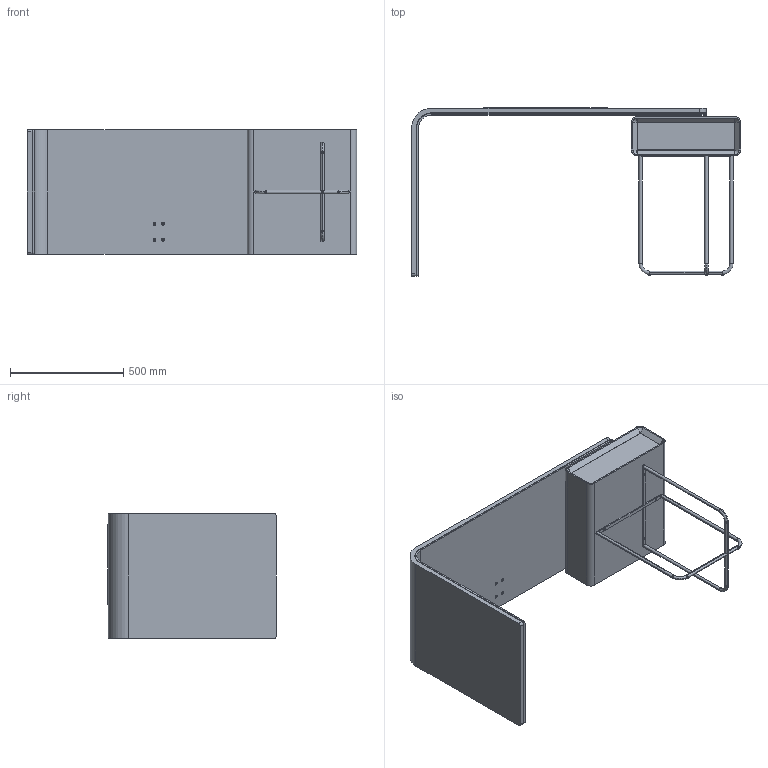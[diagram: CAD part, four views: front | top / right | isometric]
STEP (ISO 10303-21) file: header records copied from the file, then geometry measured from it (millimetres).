
FILE_DESCRIPTION (( 'STEP AP203' ), '1' );
FILE_NAME ('AU01W_Auri Desk_145x55x74h.STEP', '2024-08-06T07:02:38', ( '' ), ( '' ), 'SwSTEP 2.0', 'SolidWorks 2022', '' );
FILE_SCHEMA (( 'CONFIG_CONTROL_DESIGN' ));
Length unit declared in the file: millimetre
Products named in the file (13): P000200000000-00-PAD IN CUOI PER AURY; piedino per gamba aury; DSK000000CAS-02-DESK CASSETTO COMPLETO; AUR000000GMB_02-04-GAMBA-TUBO LATERALE; CAS001-00-Struttura Cassetto_Default<A macchina>; AU01W_Auri Desk_145x55x74h; AUR000000GMB_03-04-GAMBA-LAMA PRINCIPALE; CAS003-00-Frontalino Cassetto; AUR000000GMB_01-04-GAMBA-TUBO PRINCIPALE; CAS002-00-Struttura cassetto interno; AUR000000GMB-04-AURY GAMBA CASSETTO; AUR000000PNO-02-AURY PIANO PRINCIPALE A L; AUR000000GMB_04-04-GAMBA-LAMA LATERALE
Assembly tree (17 placements, depth 3):
  AU01W_Auri Desk_145x55x74h
    AUR000000GMB-04-AURY GAMBA CASSETTO
      AUR000000GMB_01-04-GAMBA-TUBO PRINCIPALE
      AUR000000GMB_02-04-GAMBA-TUBO LATERALE  x2
      AUR000000GMB_03-04-GAMBA-LAMA PRINCIPALE
      AUR000000GMB_04-04-GAMBA-LAMA LATERALE  x2
    DSK000000CAS-02-DESK CASSETTO COMPLETO
      CAS002-00-Struttura cassetto interno
      CAS001-00-Struttura Cassetto_Default<A macchina>
      CAS003-00-Frontalino Cassetto
    AUR000000PNO-02-AURY PIANO PRINCIPALE A L
    P000200000000-00-PAD IN CUOI PER AURY
    piedino per gamba aury  x4
Bounding box: 1450.5 x 742 x 550 mm (x, y, z)
Volume: 55561374.5 mm3; surface area: 5317579.3 mm2
Topology: 23 solids, 23 shells, 375 faces, 897 edges, 546 vertices
Faces by surface type: cylinder 137, plane 122, cone 44, torus 32, bspline 32, sphere 8
Entity records: 11682 total; most frequent: CARTESIAN_POINT 3196, DIRECTION 1463, ORIENTED_EDGE 1422, EDGE_CURVE 711, AXIS2_PLACEMENT_3D 546, VERTEX_POINT 447, LINE 371, VECTOR 371
